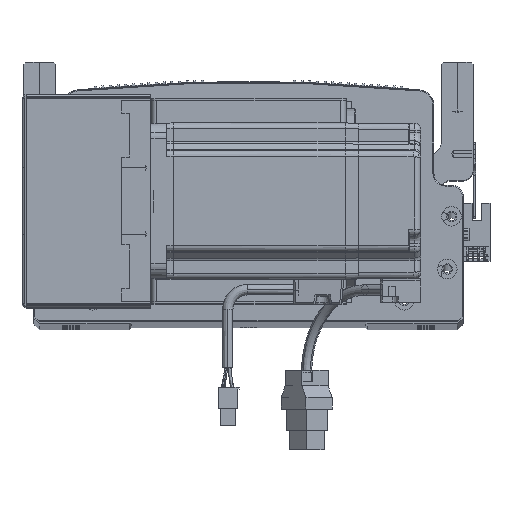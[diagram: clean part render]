
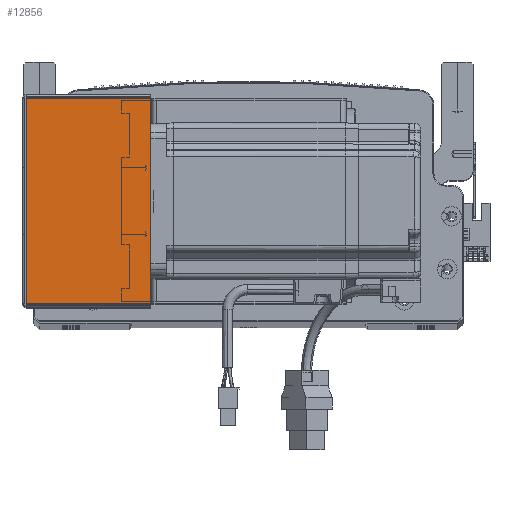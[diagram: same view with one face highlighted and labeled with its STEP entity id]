
A CAD part, top view. The second image highlights one B-rep face of the part: STEP entity #12856.
In plain terms, the highlighted planar face has unit normal (0, 0, 1) as drawn and (0, 0, -1) by its records, which use the part's own axes.
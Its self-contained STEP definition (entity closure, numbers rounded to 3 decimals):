
#2010 = EDGE_CURVE ( 'NONE', #15749, #51526, #15202, .T. ) ;
#2774 = CARTESIAN_POINT ( 'NONE',  ( 0.737, 0., -205.5 ) ) ;
#7880 = VECTOR ( 'NONE', #60357, 1000. ) ;
#9739 = CARTESIAN_POINT ( 'NONE',  ( 0., 0., -205.5 ) ) ;
#10893 = DIRECTION ( 'NONE',  ( 1., 0., 0. ) ) ;
#12856 = ADVANCED_FACE ( 'NONE', ( #62463 ), #85831, .F. ) ;
#15202 = LINE ( 'NONE', #75811, #52061 ) ;
#15749 = VERTEX_POINT ( 'NONE', #17422 ) ;
#17422 = CARTESIAN_POINT ( 'NONE',  ( 0.737, 0.707, -205.5 ) ) ;
#19746 = LINE ( 'NONE', #53668, #7880 ) ;
#28568 = ORIENTED_EDGE ( 'NONE', *, *, #2010, .F. ) ;
#31164 = CARTESIAN_POINT ( 'NONE',  ( 0., 105.293, -205.5 ) ) ;
#33403 = EDGE_CURVE ( 'NONE', #37660, #51526, #19746, .T. ) ;
#37660 = VERTEX_POINT ( 'NONE', #42342 ) ;
#38055 = ORIENTED_EDGE ( 'NONE', *, *, #68224, .T. ) ;
#42342 = CARTESIAN_POINT ( 'NONE',  ( 64.5, 105.293, -205.5 ) ) ;
#45457 = VECTOR ( 'NONE', #10893, 1000. ) ;
#45755 = CARTESIAN_POINT ( 'NONE',  ( 64.5, 0.707, -205.5 ) ) ;
#49836 = VERTEX_POINT ( 'NONE', #73641 ) ;
#51526 = VERTEX_POINT ( 'NONE', #45755 ) ;
#52061 = VECTOR ( 'NONE', #76108, 1000. ) ;
#53668 = CARTESIAN_POINT ( 'NONE',  ( 64.5, 0., -205.5 ) ) ;
#53899 = EDGE_CURVE ( 'NONE', #49836, #15749, #79414, .T. ) ;
#60357 = DIRECTION ( 'NONE',  ( 0., -1., 0. ) ) ;
#61758 = LINE ( 'NONE', #31164, #45457 ) ;
#62463 = FACE_OUTER_BOUND ( 'NONE', #81765, .T. ) ;
#63487 = ORIENTED_EDGE ( 'NONE', *, *, #33403, .T. ) ;
#65191 = DIRECTION ( 'NONE',  ( 1., 0., 0. ) ) ;
#68224 = EDGE_CURVE ( 'NONE', #49836, #37660, #61758, .T. ) ;
#73641 = CARTESIAN_POINT ( 'NONE',  ( 0.737, 105.293, -205.5 ) ) ;
#75811 = CARTESIAN_POINT ( 'NONE',  ( 0., 0.707, -205.5 ) ) ;
#76108 = DIRECTION ( 'NONE',  ( 1., 0., 0. ) ) ;
#78599 = DIRECTION ( 'NONE',  ( 0., -1., 0. ) ) ;
#78865 = DIRECTION ( 'NONE',  ( 0., 0., 1. ) ) ;
#79414 = LINE ( 'NONE', #2774, #80457 ) ;
#80457 = VECTOR ( 'NONE', #78599, 1000. ) ;
#81533 = AXIS2_PLACEMENT_3D ( 'NONE', #9739, #78865, #65191 ) ;
#81765 = EDGE_LOOP ( 'NONE', ( #83436, #38055, #63487, #28568 ) ) ;
#83436 = ORIENTED_EDGE ( 'NONE', *, *, #53899, .F. ) ;
#85831 = PLANE ( 'NONE',  #81533 ) ;
